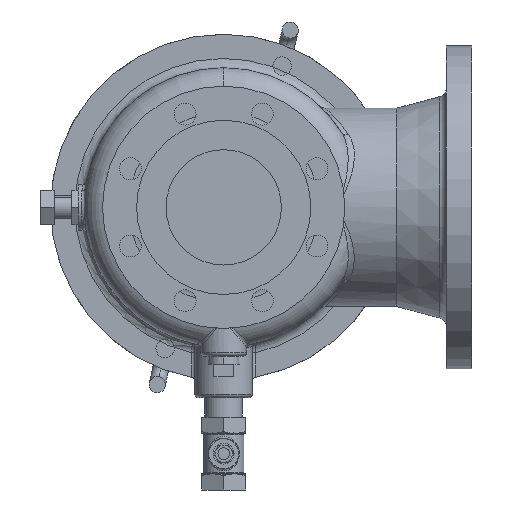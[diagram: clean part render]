
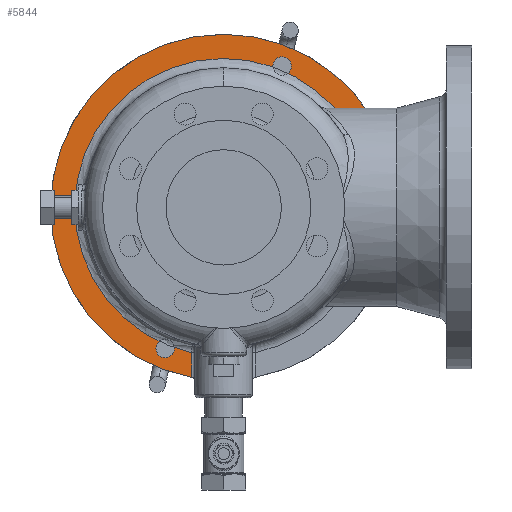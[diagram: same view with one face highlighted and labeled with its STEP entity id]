
A CAD part, front view. The second image highlights one B-rep face of the part: STEP entity #5844.
In plain terms, the highlighted planar face has unit normal (0, -1, 0).
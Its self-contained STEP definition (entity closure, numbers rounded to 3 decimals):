
#140 = AXIS2_PLACEMENT_3D ( 'NONE', #15389, #6721, #430 ) ;
#430 = DIRECTION ( 'NONE',  ( 0., 0., -1. ) ) ;
#949 = ORIENTED_EDGE ( 'NONE', *, *, #3727, .F. ) ;
#1079 = DIRECTION ( 'NONE',  ( 0., 0., 1. ) ) ;
#1109 = CARTESIAN_POINT ( 'NONE',  ( 0., 106., 0. ) ) ;
#1451 = ORIENTED_EDGE ( 'NONE', *, *, #10967, .F. ) ;
#1651 = DIRECTION ( 'NONE',  ( -1., 0., 0. ) ) ;
#2352 = DIRECTION ( 'NONE',  ( 0., 0., -1. ) ) ;
#2694 = EDGE_CURVE ( 'NONE', #12797, #16027, #2909, .T. ) ;
#2720 = AXIS2_PLACEMENT_3D ( 'NONE', #4989, #10037, #1079 ) ;
#2909 = LINE ( 'NONE', #9227, #4159 ) ;
#2935 = CIRCLE ( 'NONE', #10874, 150. ) ;
#3727 = EDGE_CURVE ( 'NONE', #12620, #9011, #13028, .T. ) ;
#4159 = VECTOR ( 'NONE', #6581, 1000. ) ;
#4299 = LINE ( 'NONE', #15805, #14473 ) ;
#4897 = CARTESIAN_POINT ( 'NONE',  ( 128.903, 106., 5. ) ) ;
#4989 = CARTESIAN_POINT ( 'NONE',  ( 0., 106., 0. ) ) ;
#5844 = ADVANCED_FACE ( 'NONE', ( #14242 ), #15719, .T. ) ;
#6282 = CIRCLE ( 'NONE', #15521, 129. ) ;
#6552 = ORIENTED_EDGE ( 'NONE', *, *, #9062, .F. ) ;
#6581 = DIRECTION ( 'NONE',  ( 0., 0., 1. ) ) ;
#6721 = DIRECTION ( 'NONE',  ( 0., -1., 0. ) ) ;
#6873 = CARTESIAN_POINT ( 'NONE',  ( -27.839, 106., -147.394 ) ) ;
#6931 = EDGE_LOOP ( 'NONE', ( #1451, #7276, #9096, #6552, #949 ) ) ;
#7276 = ORIENTED_EDGE ( 'NONE', *, *, #2694, .T. ) ;
#7971 = CARTESIAN_POINT ( 'NONE',  ( 149.917, 106., 5. ) ) ;
#8418 = DIRECTION ( 'NONE',  ( 0., 1., 0. ) ) ;
#9011 = VERTEX_POINT ( 'NONE', #7971 ) ;
#9062 = EDGE_CURVE ( 'NONE', #9011, #16200, #4299, .T. ) ;
#9096 = ORIENTED_EDGE ( 'NONE', *, *, #10333, .T. ) ;
#9227 = CARTESIAN_POINT ( 'NONE',  ( -27.839, 106., -126.696 ) ) ;
#10037 = DIRECTION ( 'NONE',  ( 0., 1., 0. ) ) ;
#10257 = DIRECTION ( 'NONE',  ( 0., 0., 1. ) ) ;
#10333 = EDGE_CURVE ( 'NONE', #16027, #16200, #6282, .T. ) ;
#10413 = CARTESIAN_POINT ( 'NONE',  ( 0., 106., 0. ) ) ;
#10874 = AXIS2_PLACEMENT_3D ( 'NONE', #10413, #14038, #10257 ) ;
#10967 = EDGE_CURVE ( 'NONE', #12797, #12620, #2935, .T. ) ;
#12320 = CARTESIAN_POINT ( 'NONE',  ( 0., 106., 150. ) ) ;
#12620 = VERTEX_POINT ( 'NONE', #12320 ) ;
#12797 = VERTEX_POINT ( 'NONE', #6873 ) ;
#13028 = CIRCLE ( 'NONE', #2720, 150. ) ;
#14038 = DIRECTION ( 'NONE',  ( 0., 1., 0. ) ) ;
#14242 = FACE_OUTER_BOUND ( 'NONE', #6931, .T. ) ;
#14473 = VECTOR ( 'NONE', #1651, 1000. ) ;
#14491 = CARTESIAN_POINT ( 'NONE',  ( -27.839, 106., -125.96 ) ) ;
#15389 = CARTESIAN_POINT ( 'NONE',  ( -150., 106., 0. ) ) ;
#15521 = AXIS2_PLACEMENT_3D ( 'NONE', #1109, #8418, #2352 ) ;
#15719 = PLANE ( 'NONE',  #140 ) ;
#15805 = CARTESIAN_POINT ( 'NONE',  ( -150., 106., 5. ) ) ;
#16027 = VERTEX_POINT ( 'NONE', #14491 ) ;
#16200 = VERTEX_POINT ( 'NONE', #4897 ) ;
